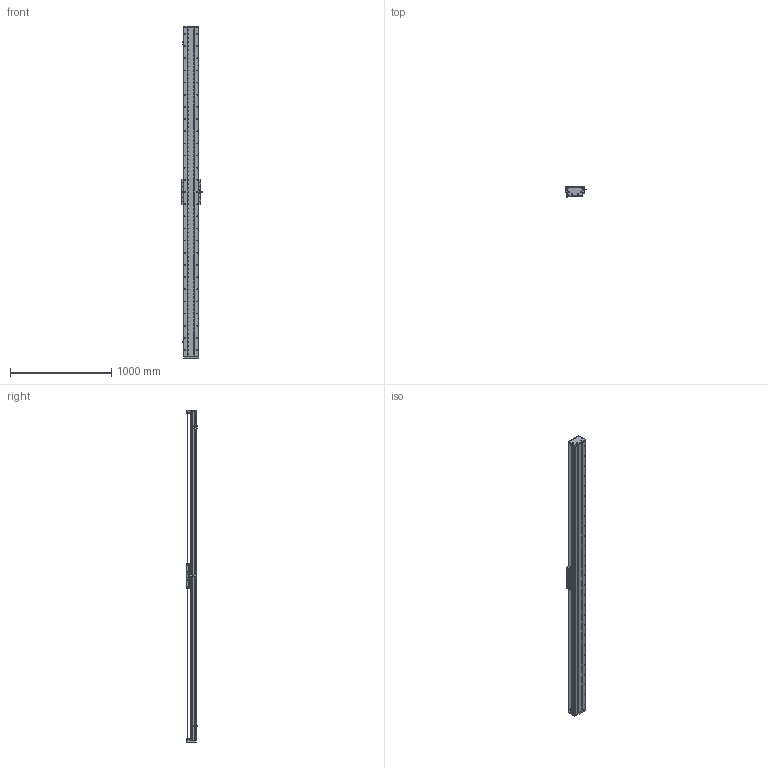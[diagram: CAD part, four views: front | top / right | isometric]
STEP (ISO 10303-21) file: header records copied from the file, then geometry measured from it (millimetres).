
FILE_DESCRIPTION (( 'STEP AP203' ), '1' );
FILE_NAME ('DA-C145-C3-T2940-C010-0.2 眻盄萇儂.STEP', '2025-08-14T01:36:08', ( '' ), ( '' ), 'SwSTEP 2.0', 'SolidWorks 2019', '' );
FILE_SCHEMA (( 'CONFIG_CONTROL_DESIGN' ));
Length unit declared in the file: millimetre
Products named in the file (32): CU145-W 幗紩賑怢; 葩璃 DA145-C3-DP-A-00 菜えA^CU145-W 幗紩賑怢; 复件 DA95-MFP-01 密封片^CU145-W 滚珠滑台; IU-CU145-L 菁釱絳寢; 葩璃 CKMA01-W060-TRL^DA-C145-C3-T-C010-0.2; 葩璃 DMA-010-0.2 黍杅芛^DA-C145-C3-T-C010-0.2; 复件 DA95-DB-00  挡板^CU145-W 滚珠滑台; IU-CU145-L-00 菁釱(L3240); 葩璃 DA95-GT-T-00^IU-CU145-L 菁釱絳寢; 葩璃 DA145-C3-DP-B-00 菜えB^CU145-W 幗紩賑怢; 葩璃 DA95-HXJ-00 遣喳砎蝶^DA-C145-C3-T-C010-0.2; 复件 DA146 钢带垫块^复件 CU145 钢带组件_DA-C145-C3-T-C010-0.2; 复件 DA146 钢带拉块^复件 CU145 钢带组件_DA-C145-C3-T-C010-0.2; 葩璃 XD-U-02L 棠掑喜^DA-C145-C3-T-C010-0.2; 66245-CU145-HT-W-00 賑雄怢啣(3D芞祧)(00); 复件 DA145-C3-YB-B-00 压板B^CU145-W 滚珠滑台; 葩璃 鞠褒情蹟譫 M3^DA-C145-C3-T-C010-0.2; 复件 DA145-C3-DK-00 挡块^CU145-W 滚珠滑台; DA-C145-C3-T2940-C010-0.2 眻盄萇儂; TAY01-M8; 复件 DA95-HK-GT-00 滑块钢轨^CU145-W-00 一体化滑动台板; 复件 DA145-GYP-00 光电感应片^DA-C145-C3-T-C010-0.2; 复件 纯铜油杯 6x6mm^CU145-W 滚珠滑台; 复件 半圆头内六角螺钉 M3×6^CU145-W 滚珠滑台; 复件 内六角平端紧定螺钉 GB.T77-2000 M5×10^CU145-W 滚珠滑台; 葩璃 CKM03-W060-C1C2-TP-0.2^DA-C145-C3-T-C010-0.2; CU145-W-00 珨极趙賑雄怢啣; 复件 DA145 钢带^复件 CU145 钢带组件_DA-C145-C3-T-C010-0.2; 复件 DA145-C3-YB-A-00 压板A^CU145-W 滚珠滑台; 葩璃 CU145 詩湍郪璃^DA-C145-C3-T-C010-0.2; 复件 DA145-DG 钢带端盖^复件 CU145 钢带组件_DA-C145-C3-T-C010-0.2; 葩璃 PM-T45^DA-C145-C3-T-C010-0.2
Assembly tree (103 placements, depth 4):
  DA-C145-C3-T2940-C010-0.2 眻盄萇儂
    IU-CU145-L 菁釱絳寢
      IU-CU145-L-00 菁釱(L3240)
      葩璃 DA95-GT-T-00^IU-CU145-L 菁釱絳寢  x4
    葩璃 CU145 詩湍郪璃^DA-C145-C3-T-C010-0.2
      复件 DA145-DG 钢带端盖^复件 CU145 钢带组件_DA-C145-C3-T-C010-0.2  x2
      复件 DA146 钢带拉块^复件 CU145 钢带组件_DA-C145-C3-T-C010-0.2  x2
      复件 DA146 钢带垫块^复件 CU145 钢带组件_DA-C145-C3-T-C010-0.2  x2
      复件 DA145 钢带^复件 CU145 钢带组件_DA-C145-C3-T-C010-0.2
    CU145-W 幗紩賑怢
      CU145-W-00 珨极趙賑雄怢啣
        66245-CU145-HT-W-00 賑雄怢啣(3D芞祧)(00)
        复件 DA95-HK-GT-00 滑块钢轨^CU145-W-00 一体化滑动台板  x8
      复件 DA95-MFP-01 密封片^CU145-W 滚珠滑台  x8
      复件 DA95-DB-00  挡板^CU145-W 滚珠滑台  x8
      复件 内六角平端紧定螺钉 GB.T77-2000 M5×10^CU145-W 滚珠滑台  x4
      复件 纯铜油杯 6x6mm^CU145-W 滚珠滑台  x4
      复件 半圆头内六角螺钉 M3×6^CU145-W 滚珠滑台  x16
      复件 DA145-C3-DK-00 挡块^CU145-W 滚珠滑台  x4
      葩璃 DA145-C3-DP-B-00 菜えB^CU145-W 幗紩賑怢  x2
      复件 DA145-C3-YB-B-00 压板B^CU145-W 滚珠滑台  x2
      葩璃 DA145-C3-DP-A-00 菜えA^CU145-W 幗紩賑怢  x3
      复件 DA145-C3-YB-A-00 压板A^CU145-W 滚珠滑台  x3
      TAY01-M8  x4
    葩璃 CKMA01-W060-TRL^DA-C145-C3-T-C010-0.2
    葩璃 PM-T45^DA-C145-C3-T-C010-0.2  x3
    葩璃 XD-U-02L 棠掑喜^DA-C145-C3-T-C010-0.2
    葩璃 DA95-HXJ-00 遣喳砎蝶^DA-C145-C3-T-C010-0.2  x4
    复件 DA145-GYP-00 光电感应片^DA-C145-C3-T-C010-0.2
    葩璃 DMA-010-0.2 黍杅芛^DA-C145-C3-T-C010-0.2
    葩璃 CKM03-W060-C1C2-TP-0.2^DA-C145-C3-T-C010-0.2
    葩璃 鞠褒情蹟譫 M3^DA-C145-C3-T-C010-0.2  x8
Bounding box: 203.5 x 108.45 x 3276 mm (x, y, z)
Volume: 14898587 mm3; surface area: 5043774.8 mm2
Topology: 99 solids, 131 shells, 4904 faces, 14330 edges, 9018 vertices
Faces by surface type: cylinder 2530, plane 1606, cone 690, torus 74, sphere 4
Entity records: 143092 total; most frequent: CARTESIAN_POINT 44412, ORIENTED_EDGE 20180, DIRECTION 18841, EDGE_CURVE 10090, AXIS2_PLACEMENT_3D 7094, VERTEX_POINT 6557, LINE 4653, VECTOR 4653
